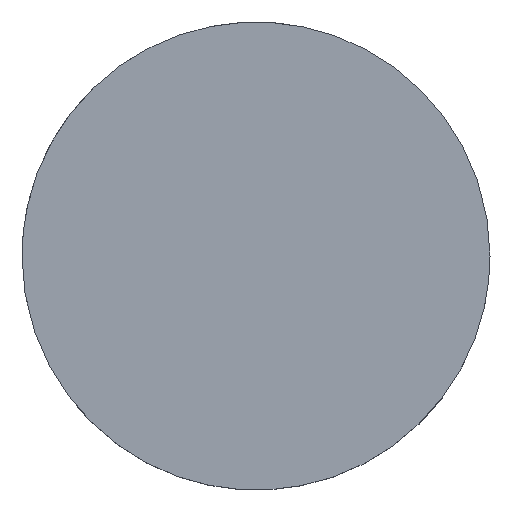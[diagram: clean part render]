
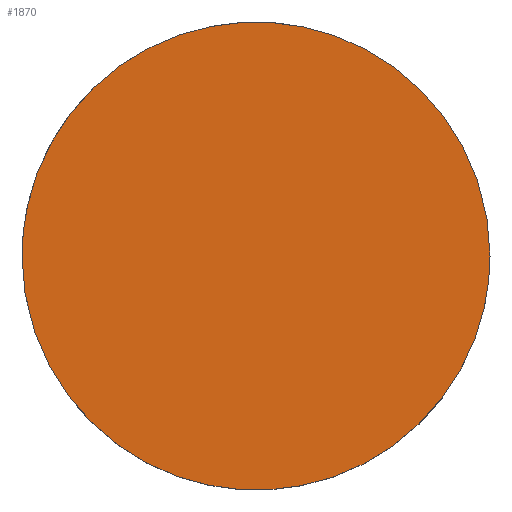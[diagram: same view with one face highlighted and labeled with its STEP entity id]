
A CAD part, top view. The second image highlights one B-rep face of the part: STEP entity #1870.
In plain terms, the highlighted planar face has unit normal (0, 0, 1).
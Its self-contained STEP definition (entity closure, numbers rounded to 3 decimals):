
#190 = CARTESIAN_POINT ('', (-6.25, 0., -17.32));
#200 = VERTEX_POINT ('', #190);
#260 = CARTESIAN_POINT ('', (6.25, 0., -17.32));
#270 = VERTEX_POINT ('', #260);
#280 = CARTESIAN_POINT ('', (6.25, 0., -17.32));
#290 = CARTESIAN_POINT ('', (6.25, 6.25, -17.32));
#300 = CARTESIAN_POINT ('', (0., 6.25, -17.32));
#310 = CARTESIAN_POINT ('', (-6.25, 6.25, -17.32));
#320 = CARTESIAN_POINT ('', (-6.25, 0., -17.32));
#330 = (
   BOUNDED_CURVE ()
   B_SPLINE_CURVE (2, (#280, #290, #300, #310, #320), .UNSPECIFIED., .F., .U.)
   B_SPLINE_CURVE_WITH_KNOTS ((3, 2, 3), (0., 1.571, 3.142), .UNSPECIFIED.)
   CURVE ()
   GEOMETRIC_REPRESENTATION_ITEM ()
   RATIONAL_B_SPLINE_CURVE ((1., 0.707, 1., 0.707, 1.))
   REPRESENTATION_ITEM ('')
);
#340 = EDGE_CURVE ('', #270, #200, #330, .T.);
#580 = CARTESIAN_POINT ('', (-6.25, 0., -17.32));
#590 = CARTESIAN_POINT ('', (-6.25, -6.25, -17.32));
#600 = CARTESIAN_POINT ('', (0., -6.25, -17.32));
#610 = CARTESIAN_POINT ('', (6.25, -6.25, -17.32));
#620 = CARTESIAN_POINT ('', (6.25, 0., -17.32));
#630 = (
   BOUNDED_CURVE ()
   B_SPLINE_CURVE (2, (#580, #590, #600, #610, #620), .UNSPECIFIED., .F., .U.)
   B_SPLINE_CURVE_WITH_KNOTS ((3, 2, 3), (3.142, 4.712, 6.283), .UNSPECIFIED.)
   CURVE ()
   GEOMETRIC_REPRESENTATION_ITEM ()
   RATIONAL_B_SPLINE_CURVE ((1., 0.707, 1., 0.707, 1.))
   REPRESENTATION_ITEM ('')
);
#640 = EDGE_CURVE ('', #200, #270, #630, .T.);
#1780 = ORIENTED_EDGE ('', *, *, #340, .T.);
#1790 = ORIENTED_EDGE ('', *, *, #640, .T.);
#1800 = EDGE_LOOP ('', (#1780, #1790));
#1810 = FACE_OUTER_BOUND ('', #1800, .T.);
#1820 = CARTESIAN_POINT ('', (0., 12.954, -17.32));
#1830 = DIRECTION ('', (0., 0., 1.));
#1840 = DIRECTION ('', (-0.707, -0.707, 0.));
#1850 = AXIS2_PLACEMENT_3D ('', #1820, #1830, #1840);
#1860 = PLANE ('', #1850);
#1870 = ADVANCED_FACE ('', (#1810), #1860, .T.);
